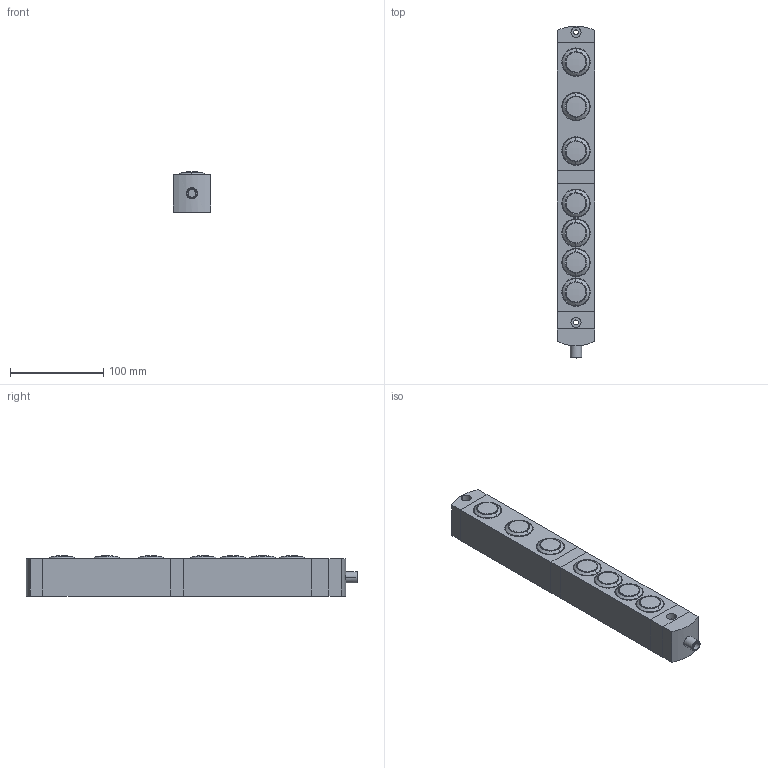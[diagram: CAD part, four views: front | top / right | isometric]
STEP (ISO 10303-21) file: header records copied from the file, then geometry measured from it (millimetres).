
FILE_DESCRIPTION (( 'STEP AP203' ), '1' );
FILE_NAME ('ZF_STEP_BN_AC7EA02.STEP', '2025-11-17T13:29:51', ( '' ), ( '' ), 'SwSTEP 2.0', 'SolidWorks 2023', '' );
FILE_SCHEMA (( 'CONFIG_CONTROL_DESIGN' ));
Length unit declared in the file: millimetre
Products named in the file (10): ZF_STEP_VN_NG-AC27121; Pizzato_11144; Connetttore M12 assiale; Pizzato_11133; Pulsante rasato_3DWeb_27121 bianco; Pizzato_4dispositivi; ZF_STEP_BN_AC7EA02; Pizzato_3dispositivi; Connetttore M12 assiale_M12 assiale; Pizzato_11135
Assembly tree (15 placements, depth 3):
  ZF_STEP_BN_AC7EA02
    Pizzato_11144
    Pizzato_11135
    Pizzato_3dispositivi
    Pizzato_11133
    Pizzato_4dispositivi
    Connetttore M12 assiale
      Connetttore M12 assiale_M12 assiale
    ZF_STEP_VN_NG-AC27121  x7
      Pulsante rasato_3DWeb_27121 bianco
Bounding box: 40 x 355.1 x 42.94 mm (x, y, z)
Volume: 560842.4 mm3; surface area: 101246.2 mm2
Topology: 13 solids, 13 shells, 784 faces, 1958 edges, 1310 vertices
Faces by surface type: plane 342, cylinder 184, bspline 174, cone 84
Entity records: 16970 total; most frequent: CARTESIAN_POINT 6002, ORIENTED_EDGE 2128, DIRECTION 1769, EDGE_CURVE 1064, VERTEX_POINT 710, LINE 663, VECTOR 663, AXIS2_PLACEMENT_3D 553
